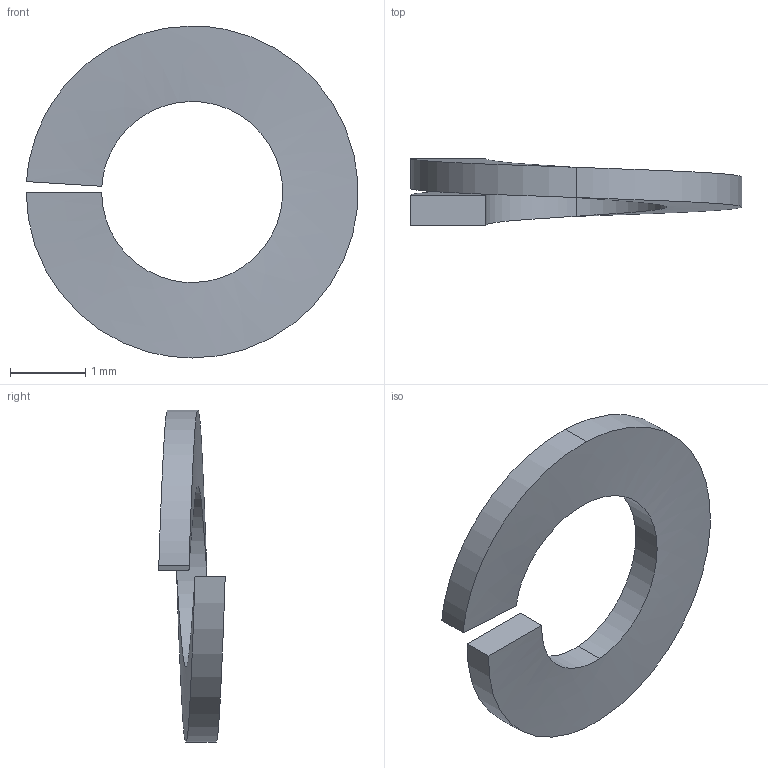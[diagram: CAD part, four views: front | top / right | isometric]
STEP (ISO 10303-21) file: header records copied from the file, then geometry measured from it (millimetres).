
FILE_DESCRIPTION(/* description */ ('(C) Elphel, Inc. 2012. Licensed under CERN OHL v.1.1 or later, see http://ohwr.org/cernohl'),/* implementation_level */ '2;1');
FILE_NAME(/* name */ '0353-96-03',/* time_stamp */ '2012-06-04T20:37:52-06:00',/* author */ (''),/* organization */ ('Elphel, Inc'),/* preprocessor_version */ 'ST-DEVELOPER v12',/* originating_system */ 'VariCAD 2012-1.04; kernel version (20100102)',/* authorisation */ '');
FILE_SCHEMA (('AUTOMOTIVE_DESIGN'));
Length unit declared in the file: millimetre
Products named in the file (1): Part
Bounding box: 4.4 x 0.88 x 4.4 mm (x, y, z)
Volume: 4.2 mm3; surface area: 30.4 mm2
Topology: 1 solids, 1 shells, 10 faces, 24 edges, 16 vertices
Faces by surface type: cylinder 6, bspline 2, plane 2
Entity records: 529 total; most frequent: CARTESIAN_POINT 298, ORIENTED_EDGE 48, DIRECTION 32, EDGE_CURVE 24, VERTEX_POINT 16, B_SPLINE_CURVE_WITH_KNOTS 12, LINE 12, VECTOR 12
